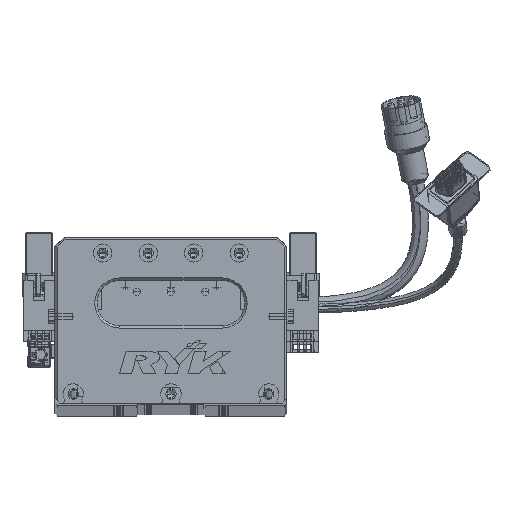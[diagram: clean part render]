
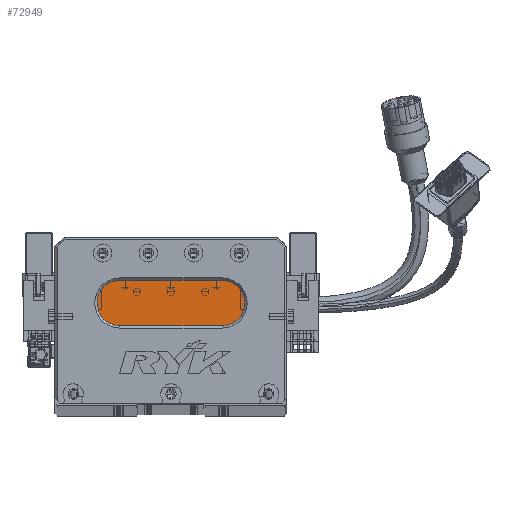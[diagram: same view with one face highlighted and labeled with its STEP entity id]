
A CAD part, top view. The second image highlights one B-rep face of the part: STEP entity #72949.
In plain terms, the highlighted planar face has unit normal (0, 0, 1) as drawn and (0, 0, -1) by its records, which use the part's own axes.
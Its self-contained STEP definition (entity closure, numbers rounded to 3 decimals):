
#2594 = DIRECTION ( 'NONE',  ( -1., 0., 0. ) ) ;
#4157 = CARTESIAN_POINT ( 'NONE',  ( 73.5, 34., 13. ) ) ;
#4297 = DIRECTION ( 'NONE',  ( 0., 0., -1. ) ) ;
#8005 = CARTESIAN_POINT ( 'NONE',  ( 28.5, 34., 13. ) ) ;
#8102 = VERTEX_POINT ( 'NONE', #9241 ) ;
#9241 = CARTESIAN_POINT ( 'NONE',  ( 73.5, 34., 13. ) ) ;
#10399 = ORIENTED_EDGE ( 'NONE', *, *, #51942, .T. ) ;
#10836 = CARTESIAN_POINT ( 'NONE',  ( 28.5, 44., 13. ) ) ;
#11656 = DIRECTION ( 'NONE',  ( -1., 0., 0. ) ) ;
#11719 = DIRECTION ( 'NONE',  ( 0., 0., -1. ) ) ;
#14765 = AXIS2_PLACEMENT_3D ( 'NONE', #72144, #4297, #11656 ) ;
#15006 = DIRECTION ( 'NONE',  ( 0., 0., -1. ) ) ;
#15155 = VECTOR ( 'NONE', #84677, 1000. ) ;
#23432 = ORIENTED_EDGE ( 'NONE', *, *, #78752, .T. ) ;
#23841 = VERTEX_POINT ( 'NONE', #56745 ) ;
#25041 = EDGE_CURVE ( 'NONE', #64884, #45777, #40992, .T. ) ;
#25973 = ORIENTED_EDGE ( 'NONE', *, *, #57502, .T. ) ;
#29800 = CIRCLE ( 'NONE', #59166, 10. ) ;
#33862 = FACE_OUTER_BOUND ( 'NONE', #86114, .T. ) ;
#35735 = DIRECTION ( 'NONE',  ( -1., 0., 0. ) ) ;
#37619 = DIRECTION ( 'NONE',  ( 1., 0., 0. ) ) ;
#40992 = CIRCLE ( 'NONE', #14765, 10. ) ;
#42873 = VERTEX_POINT ( 'NONE', #52306 ) ;
#45124 = DIRECTION ( 'NONE',  ( -1., 0., 0. ) ) ;
#45777 = VERTEX_POINT ( 'NONE', #78699 ) ;
#49241 = AXIS2_PLACEMENT_3D ( 'NONE', #62203, #15006, #2594 ) ;
#49772 = VECTOR ( 'NONE', #37619, 1000. ) ;
#51942 = EDGE_CURVE ( 'NONE', #23841, #42873, #58235, .T. ) ;
#52306 = CARTESIAN_POINT ( 'NONE',  ( 73.5, 54., 13. ) ) ;
#53181 = LINE ( 'NONE', #4157, #15155 ) ;
#56745 = CARTESIAN_POINT ( 'NONE',  ( 28.5, 54., 13. ) ) ;
#57502 = EDGE_CURVE ( 'NONE', #45777, #23841, #83243, .T. ) ;
#58235 = LINE ( 'NONE', #70058, #49772 ) ;
#59166 = AXIS2_PLACEMENT_3D ( 'NONE', #63122, #76106, #35735 ) ;
#62203 = CARTESIAN_POINT ( 'NONE',  ( 73.5, 44., 13. ) ) ;
#63122 = CARTESIAN_POINT ( 'NONE',  ( 73.5, 44., 13. ) ) ;
#64884 = VERTEX_POINT ( 'NONE', #8005 ) ;
#69450 = ORIENTED_EDGE ( 'NONE', *, *, #25041, .T. ) ;
#70058 = CARTESIAN_POINT ( 'NONE',  ( 73.5, 54., 13. ) ) ;
#72144 = CARTESIAN_POINT ( 'NONE',  ( 28.5, 44., 13. ) ) ;
#72949 = ADVANCED_FACE ( 'NONE', ( #33862 ), #82867, .T. ) ;
#76106 = DIRECTION ( 'NONE',  ( 0., 0., -1. ) ) ;
#77310 = EDGE_CURVE ( 'NONE', #8102, #64884, #53181, .T. ) ;
#78699 = CARTESIAN_POINT ( 'NONE',  ( 18.5, 44., 13. ) ) ;
#78752 = EDGE_CURVE ( 'NONE', #42873, #8102, #29800, .T. ) ;
#82867 = PLANE ( 'NONE',  #49241 ) ;
#83243 = CIRCLE ( 'NONE', #84241, 10. ) ;
#84241 = AXIS2_PLACEMENT_3D ( 'NONE', #10836, #11719, #45124 ) ;
#84677 = DIRECTION ( 'NONE',  ( -1., 0., 0. ) ) ;
#86114 = EDGE_LOOP ( 'NONE', ( #23432, #86400, #69450, #25973, #10399 ) ) ;
#86400 = ORIENTED_EDGE ( 'NONE', *, *, #77310, .T. ) ;
